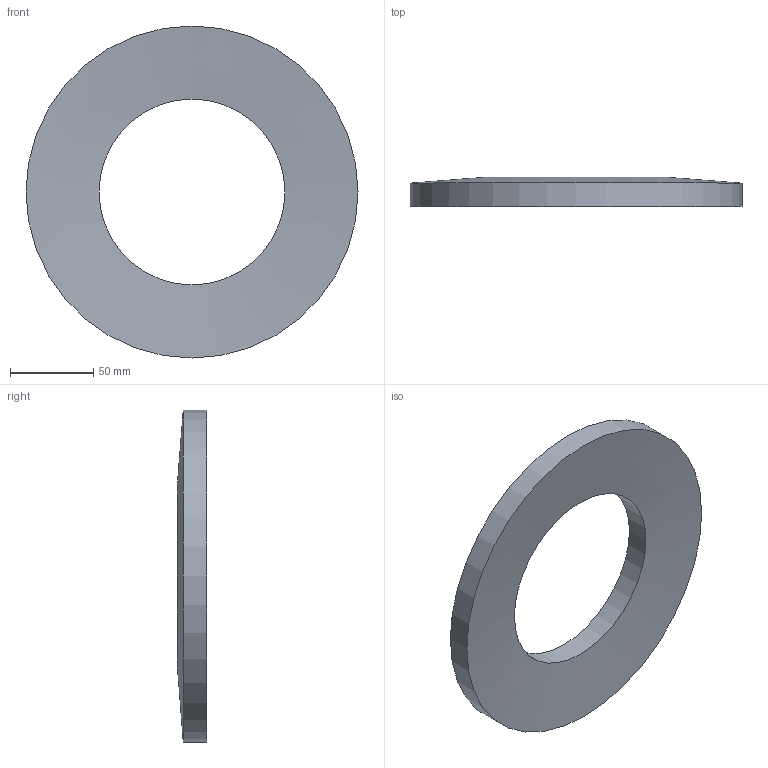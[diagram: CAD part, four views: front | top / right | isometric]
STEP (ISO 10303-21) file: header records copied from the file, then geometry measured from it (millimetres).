
FILE_DESCRIPTION(/* description */ ('256628N'),/* implementation_level */ '2;1');
FILE_NAME(/* name */ 'ST.2000.1120.1400.step',/* time_stamp */ '2026-09-18T10:36:39+02:00',/* author */ ('impex-ready.pl'),/* organization */ ('ST.2000.1120.1400'),/* preprocessor_version */ 'ST-DEVELOPER v20.1',/* originating_system */ 'Autodesk Inventor 2026',/* authorisation */ 'Ugiecie 0,75 h0 = 2.63');
FILE_SCHEMA (('AUTOMOTIVE_DESIGN { 1 0 10303 214 3 1 1 }'));
Length unit declared in the file: millimetre
Products named in the file (1): ST.2000.1120.1400
Bounding box: 200 x 17.5 x 200 mm (x, y, z)
Volume: 302824.8 mm3; surface area: 57025.4 mm2
Topology: 1 solids, 1 shells, 4 faces, 8 edges, 4 vertices
Faces by surface type: cone 2, cylinder 2
Full cylindrical faces by diameter (mm): 112 x1, 200 x1
Entity records: 151 total; most frequent: DIRECTION 22, CARTESIAN_POINT 17, ORIENTED_EDGE 16, AXIS2_PLACEMENT_3D 9, EDGE_CURVE 8, FACE_OUTER_BOUND 4, EDGE_LOOP 4, LINE 4
